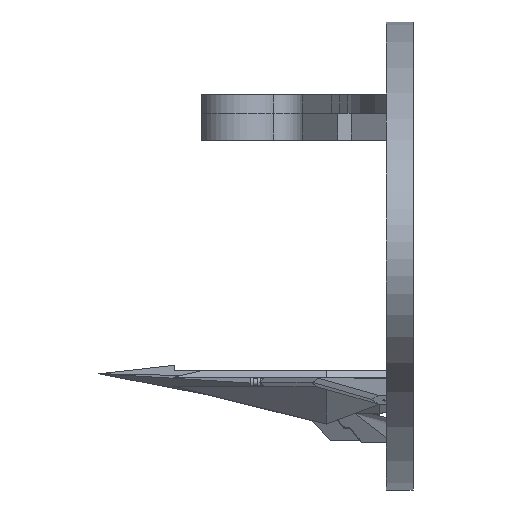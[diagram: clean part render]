
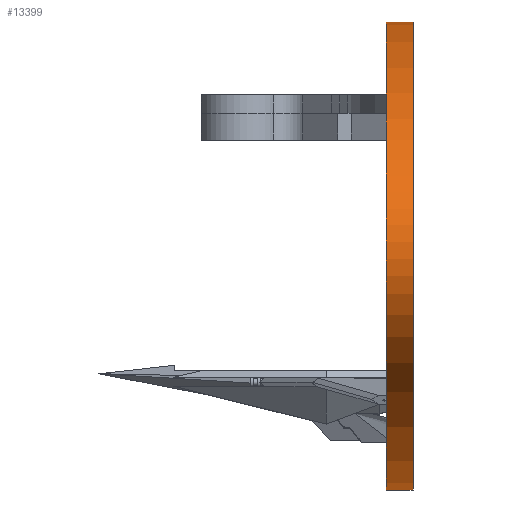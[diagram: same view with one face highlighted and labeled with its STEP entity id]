
A CAD part, left-side view. The second image highlights one B-rep face of the part: STEP entity #13399.
In plain terms, the highlighted free-form (B-spline) face has degree [3, 1] with [19, 2] control points.
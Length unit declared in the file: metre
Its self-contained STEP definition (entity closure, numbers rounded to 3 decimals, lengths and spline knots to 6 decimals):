
#92=B_SPLINE_SURFACE_WITH_KNOTS('',3,1,((#19405,#19406),(#19407,#19408),
(#19409,#19410),(#19411,#19412),(#19413,#19414),(#19415,#19416),(#19417,
#19418),(#19419,#19420),(#19421,#19422),(#19423,#19424),(#19425,#19426),
(#19427,#19428),(#19429,#19430),(#19431,#19432),(#19433,#19434),(#19435,
#19436),(#19437,#19438),(#19439,#19440),(#19441,#19442)),
 .SURF_OF_LINEAR_EXTRUSION.,.T.,.F.,.F.,(1,1,1,1,1,1,1,1,1,1,1,1,1,1,1,
1,1,1,1,1,1,1,1),(2,2),(-1.178097,-0.785398,-0.392699,
0.,0.392699,0.785398,1.178097,1.570796,
1.963495,2.356194,2.748894,3.141593,3.534292,
3.926991,4.31969,4.712389,5.105088,5.497787,
5.890486,6.283185,6.675884,7.068583,7.461283),
(0.,1.),.UNSPECIFIED.);
#266=ELLIPSE('',#14264,0.116969,0.052948);
#267=ELLIPSE('',#14273,0.116969,0.052948);
#730=ORIENTED_EDGE('',*,*,#4437,.T.);
#731=ORIENTED_EDGE('',*,*,#4378,.F.);
#4378=EDGE_CURVE('',#6275,#6275,#266,.T.);
#4437=EDGE_CURVE('',#6325,#6325,#267,.T.);
#6275=VERTEX_POINT('',#19194);
#6325=VERTEX_POINT('',#19311);
#10992=EDGE_LOOP('',(#730));
#10993=EDGE_LOOP('',(#731));
#11859=FACE_BOUND('',#10992,.T.);
#11860=FACE_BOUND('',#10993,.T.);
#13399=ADVANCED_FACE('',(#11859,#11860),#92,.F.);
#14264=AXIS2_PLACEMENT_3D('',#19193,#15454,#15455);
#14273=AXIS2_PLACEMENT_3D('',#19310,#15530,#15531);
#15454=DIRECTION('',(0.,1.,0.));
#15455=DIRECTION('',(1.,0.,0.));
#15530=DIRECTION('',(0.,1.,0.));
#15531=DIRECTION('',(1.,0.,0.));
#19193=CARTESIAN_POINT('',(-0.004574,0.006,0.010945));
#19194=CARTESIAN_POINT('',(0.112395,0.006,0.010945));
#19310=CARTESIAN_POINT('',(-0.004574,0.,0.010945));
#19311=CARTESIAN_POINT('',(0.112395,0.,0.010945));
#19405=CARTESIAN_POINT('',(0.106305,0.006,0.031735));
#19406=CARTESIAN_POINT('',(0.106305,0.,0.031735));
#19407=CARTESIAN_POINT('',(0.11544,0.006,0.010945));
#19408=CARTESIAN_POINT('',(0.11544,0.,0.010945));
#19409=CARTESIAN_POINT('',(0.106305,0.006,-0.009845));
#19410=CARTESIAN_POINT('',(0.106305,0.,-0.009845));
#19411=CARTESIAN_POINT('',(0.080289,0.006,-0.02747));
#19412=CARTESIAN_POINT('',(0.080289,0.,-0.02747));
#19413=CARTESIAN_POINT('',(0.041353,0.006,-0.039247));
#19414=CARTESIAN_POINT('',(0.041353,0.,-0.039247));
#19415=CARTESIAN_POINT('',(-0.004574,0.006,-0.043382));
#19416=CARTESIAN_POINT('',(-0.004574,0.,-0.043382));
#19417=CARTESIAN_POINT('',(-0.050502,0.006,-0.039247));
#19418=CARTESIAN_POINT('',(-0.050502,0.,-0.039247));
#19419=CARTESIAN_POINT('',(-0.089437,0.006,-0.02747));
#19420=CARTESIAN_POINT('',(-0.089437,0.,-0.02747));
#19421=CARTESIAN_POINT('',(-0.115453,0.006,-0.009845));
#19422=CARTESIAN_POINT('',(-0.115453,0.,-0.009845));
#19423=CARTESIAN_POINT('',(-0.124589,0.006,0.010945));
#19424=CARTESIAN_POINT('',(-0.124589,0.,0.010945));
#19425=CARTESIAN_POINT('',(-0.115453,0.006,0.031735));
#19426=CARTESIAN_POINT('',(-0.115453,0.,0.031735));
#19427=CARTESIAN_POINT('',(-0.089437,0.006,0.04936));
#19428=CARTESIAN_POINT('',(-0.089437,0.,0.04936));
#19429=CARTESIAN_POINT('',(-0.050502,0.006,0.061136));
#19430=CARTESIAN_POINT('',(-0.050502,0.,0.061136));
#19431=CARTESIAN_POINT('',(-0.004574,0.006,0.065271));
#19432=CARTESIAN_POINT('',(-0.004574,0.,0.065271));
#19433=CARTESIAN_POINT('',(0.041353,0.006,0.061136));
#19434=CARTESIAN_POINT('',(0.041353,0.,0.061136));
#19435=CARTESIAN_POINT('',(0.080289,0.006,0.04936));
#19436=CARTESIAN_POINT('',(0.080289,0.,0.04936));
#19437=CARTESIAN_POINT('',(0.106305,0.006,0.031735));
#19438=CARTESIAN_POINT('',(0.106305,0.,0.031735));
#19439=CARTESIAN_POINT('',(0.11544,0.006,0.010945));
#19440=CARTESIAN_POINT('',(0.11544,0.,0.010945));
#19441=CARTESIAN_POINT('',(0.106305,0.006,-0.009845));
#19442=CARTESIAN_POINT('',(0.106305,0.,-0.009845));
